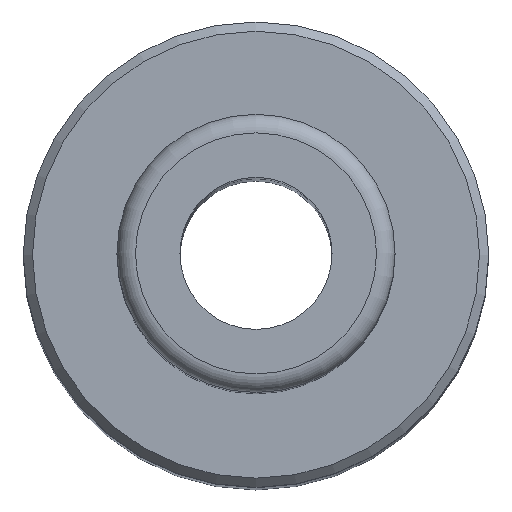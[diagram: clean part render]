
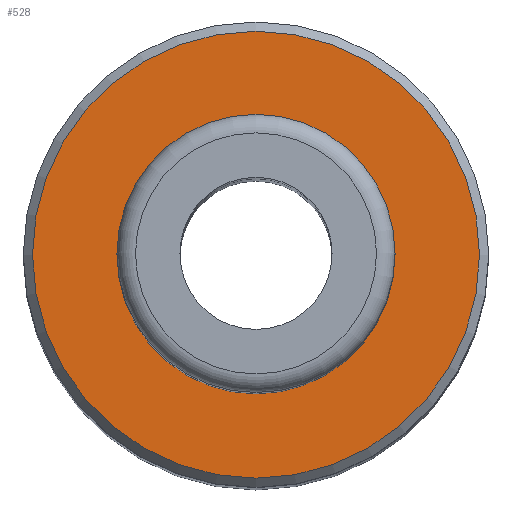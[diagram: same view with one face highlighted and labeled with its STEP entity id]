
A CAD part, top view. The second image highlights one B-rep face of the part: STEP entity #528.
In plain terms, the highlighted planar face has unit normal (0, 0, 1).
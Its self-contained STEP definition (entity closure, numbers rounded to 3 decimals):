
#439 = EDGE_CURVE('',#440,#440,#442,.T.);
#440 = VERTEX_POINT('',#441);
#441 = CARTESIAN_POINT('',(8.2,0.,159.));
#442 = CIRCLE('',#443,8.2);
#443 = AXIS2_PLACEMENT_3D('',#444,#445,#446);
#444 = CARTESIAN_POINT('',(0.,0.,159.));
#445 = DIRECTION('',(0.,0.,1.));
#446 = DIRECTION('',(1.,0.,0.));
#528 = ADVANCED_FACE('',(#529,#540),#543,.T.);
#529 = FACE_BOUND('',#530,.T.);
#530 = EDGE_LOOP('',(#531));
#531 = ORIENTED_EDGE('',*,*,#532,.T.);
#532 = EDGE_CURVE('',#533,#533,#535,.T.);
#533 = VERTEX_POINT('',#534);
#534 = CARTESIAN_POINT('',(24.1,0.,159.));
#535 = CIRCLE('',#536,24.1);
#536 = AXIS2_PLACEMENT_3D('',#537,#538,#539);
#537 = CARTESIAN_POINT('',(0.,0.,159.));
#538 = DIRECTION('',(0.,0.,1.));
#539 = DIRECTION('',(1.,0.,0.));
#540 = FACE_BOUND('',#541,.T.);
#541 = EDGE_LOOP('',(#542));
#542 = ORIENTED_EDGE('',*,*,#439,.F.);
#543 = PLANE('',#544);
#544 = AXIS2_PLACEMENT_3D('',#545,#546,#547);
#545 = CARTESIAN_POINT('',(0.,0.,159.));
#546 = DIRECTION('',(0.,0.,1.));
#547 = DIRECTION('',(1.,0.,0.));
